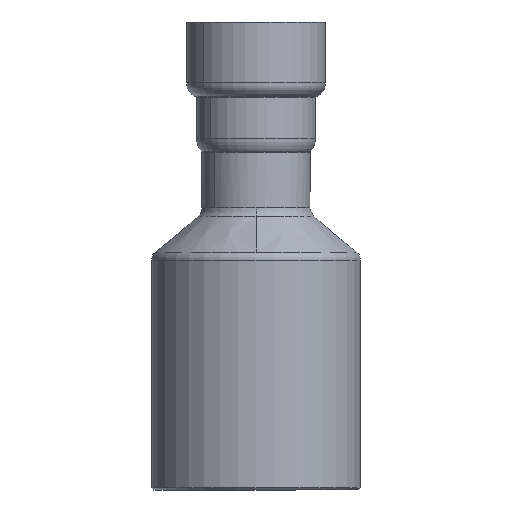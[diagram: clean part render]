
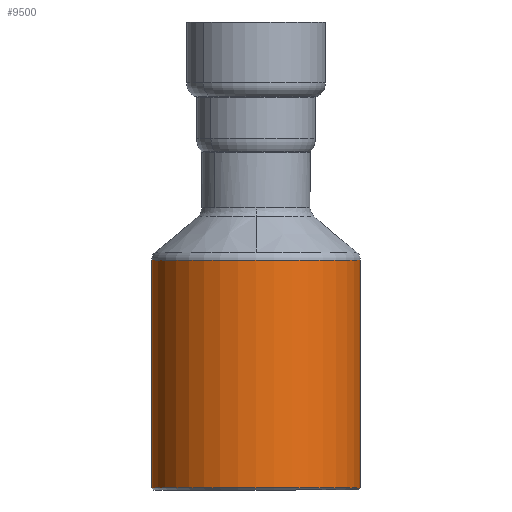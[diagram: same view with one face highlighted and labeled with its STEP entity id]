
A CAD part, front view. The second image highlights one B-rep face of the part: STEP entity #9500.
In plain terms, the highlighted cylindrical face has radius 24.15 mm (diameter 48.3 mm), a partial arc.
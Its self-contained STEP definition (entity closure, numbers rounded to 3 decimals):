
#2670=CARTESIAN_POINT('',(117.747,28.451,
-15.752));
#2680=DIRECTION('',(1.,0.,0.));
#2690=VECTOR('',#2680,1.);
#2700=LINE('',#2670,#2690);
#2710=CARTESIAN_POINT('',(89.11,28.451,
-15.752));
#2720=VERTEX_POINT('',#2710);
#2730=CARTESIAN_POINT('',(141.647,28.451,
-15.752));
#2740=VERTEX_POINT('',#2730);
#2750=EDGE_CURVE('',#2720,#2740,#2700,.T.);
#2770=CARTESIAN_POINT('',(89.11,46.757,
0.));
#2780=DIRECTION('',(1.,0.,0.));
#2790=DIRECTION('',(0.,-0.758,
-0.652));
#2800=AXIS2_PLACEMENT_3D('',#2770,#2780,#2790);
#2810=CIRCLE('',#2800,24.15);
#2820=CARTESIAN_POINT('',(89.11,65.062,
15.752));
#2830=VERTEX_POINT('',#2820);
#2860=CARTESIAN_POINT('',(117.747,65.062,
15.752));
#2870=DIRECTION('',(1.,0.,0.));
#2880=VECTOR('',#2870,1.);
#2890=LINE('',#2860,#2880);
#2900=CARTESIAN_POINT('',(141.647,65.062,
15.752));
#2910=VERTEX_POINT('',#2900);
#2920=EDGE_CURVE('',#2830,#2910,#2890,.T.);
#2940=CARTESIAN_POINT('',(141.647,46.757,
0.));
#2950=DIRECTION('',(1.,0.,0.));
#2960=DIRECTION('',(0.,-0.758,
-0.652));
#2970=AXIS2_PLACEMENT_3D('',#2940,#2950,#2960);
#2980=CIRCLE('',#2970,24.15);
#9370=CARTESIAN_POINT('',(117.747,46.757,
0.));
#9380=DIRECTION('',(1.,0.,0.));
#9390=DIRECTION('',(0.,-0.758,
-0.652));
#9400=AXIS2_PLACEMENT_3D('',#9370,#9380,#9390);
#9410=CYLINDRICAL_SURFACE('',#9400,24.15);
#9420=EDGE_CURVE('',#2740,#2910,#2980,.T.);
#9430=ORIENTED_EDGE('',*,*,#9420,.F.);
#9440=ORIENTED_EDGE('',*,*,#2920,.T.);
#9450=EDGE_CURVE('',#2720,#2830,#2810,.T.);
#9460=ORIENTED_EDGE('',*,*,#9450,.T.);
#9470=ORIENTED_EDGE('',*,*,#2750,.F.);
#9480=EDGE_LOOP('',(#9470,#9460,#9440,#9430));
#9490=FACE_OUTER_BOUND('',#9480,.T.);
#9500=ADVANCED_FACE('',(#9490),#9410,.T.);
